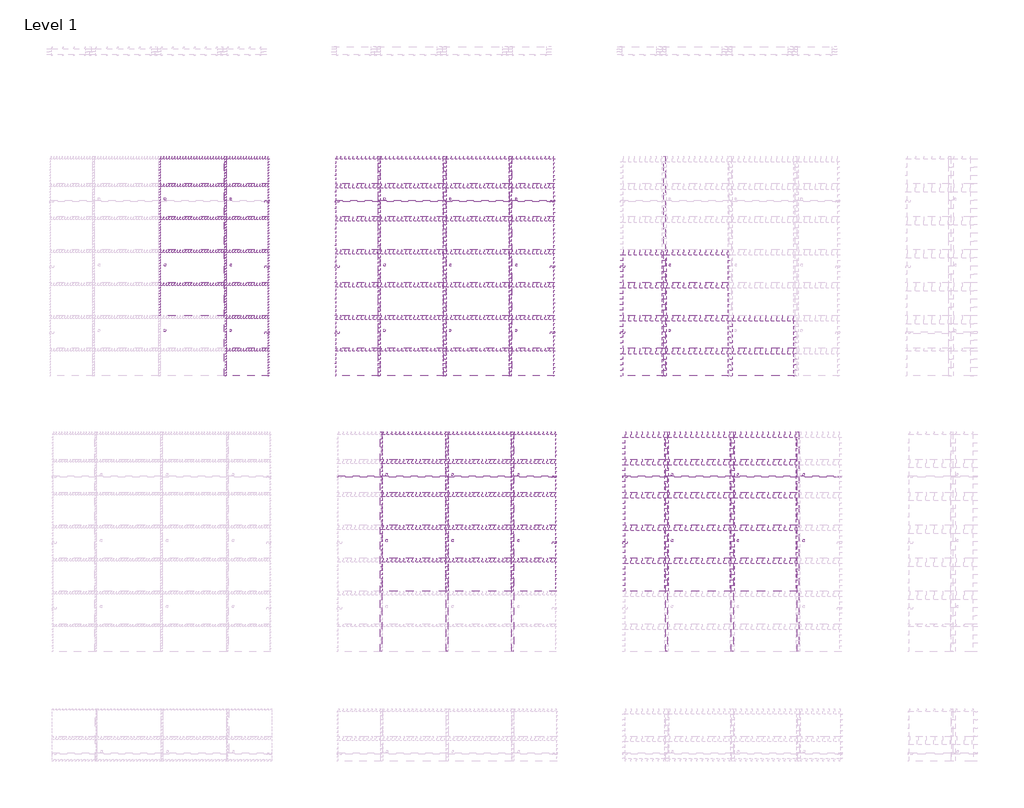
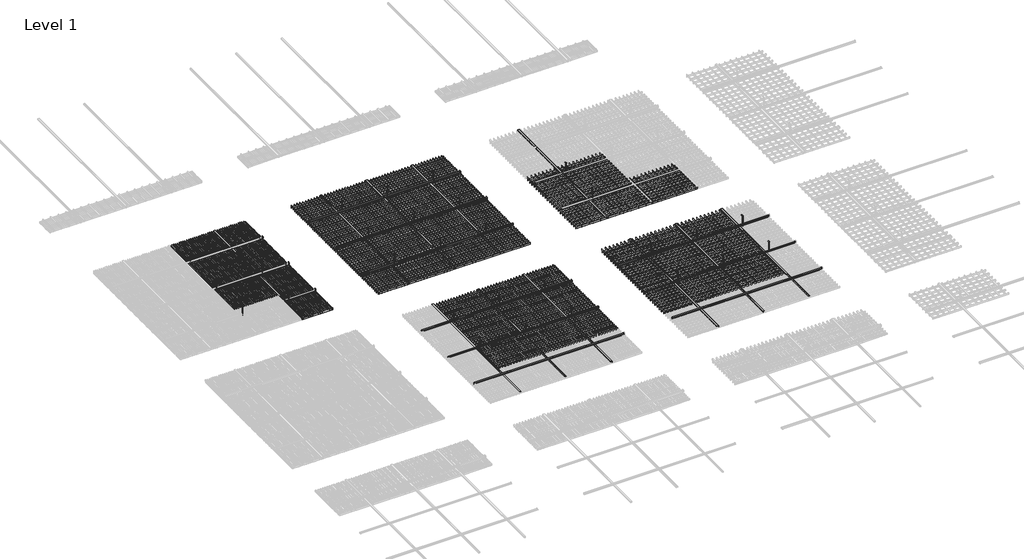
# One storey, part 12 of 32: 138 proxies.
"""IFC4 building model written with IfcOpenShell, lengths in millimetres."""

from ifc_helpers import new_model, si_unit, origin, place, context, project, spatial, transform, mapped, element, save
from components import generic_models_f4ce44e0, generic_models_4dc628ab, generic_models_507d97fd, generic_models_99cc4506, generic_models_b27fb88c, generic_models_1b98d296, generic_models_f7fa241b, generic_models_8915e19e, generic_models_b706f660, generic_models_ebbf936e, generic_models_45dab3f8, generic_models_70ed178c, generic_models_ec955ca2, generic_models_ed86a27e, generic_models_45de698d, generic_models_6ab814e1, generic_models_0d36629b, generic_models_4441d552, generic_models_22f2553a, generic_models_706eee53, generic_models_723ebf24, generic_models_71c4b85c, generic_models_6bcacae0, generic_models_f6474ad0, generic_models_28f6a95c, generic_models_9e18e937

model = new_model("IFC4")

# Units and contexts
model_context = context("Model", 3, world=origin())
ifc_project = project(units=[si_unit("LENGTHUNIT", "METRE", prefix="MILLI")], contexts=[model_context])

# Site, building, storey
site = spatial("IfcSite", under=ifc_project)
building = spatial("IfcBuilding", under=site)
storey = spatial("IfcBuildingStorey", under=building, Name="Level 1", Elevation=0.0)

# Proxies
placement = place(None, origin())
generic_models_shape = generic_models_f4ce44e0(model_context)
element("IfcBuildingElementProxy", 1, Name="durlum_U94 : durlum_U94", ObjectType="durlum_U94 : durlum_U94", at=placement, inside=storey, context=model_context, shape_type="MappedRepresentation", body=[
    mapped(generic_models_shape, transform((37174.5159714, -2089.6204758, 3724.0), x_axis=(0.0, 1.0, 0.0), y_axis=(-1.0, 0.0, 0.0), z_axis=(0.0, 0.0, 1.0))),
])
element("IfcBuildingElementProxy", 2, Name="durlum_U94 : durlum_U94", ObjectType="durlum_U94 : durlum_U94", at=placement, inside=storey, context=model_context, shape_type="MappedRepresentation", body=[
    mapped(generic_models_shape, transform((41174.5159714, -2089.6204758, 3724.0), x_axis=(0.0, 1.0, 0.0), y_axis=(-1.0, 0.0, 0.0), z_axis=(0.0, 0.0, 1.0))),
])
element("IfcBuildingElementProxy", 3, Name="durlum_U94 : durlum_U94", ObjectType="durlum_U94 : durlum_U94", at=placement, inside=storey, context=model_context, shape_type="MappedRepresentation", body=[
    mapped(generic_models_shape, transform((39974.5159714, -2089.6204758, 3724.0), x_axis=(0.0, 1.0, 0.0), y_axis=(-1.0, 0.0, 0.0), z_axis=(0.0, 0.0, 1.0))),
])
element("IfcBuildingElementProxy", 4, Name="durlum_U94 : durlum_U94", ObjectType="durlum_U94 : durlum_U94", at=placement, inside=storey, context=model_context, shape_type="MappedRepresentation", body=[
    mapped(generic_models_shape, transform((42374.5159714, -2089.6204758, 3724.0), x_axis=(0.0, 1.0, 0.0), y_axis=(-1.0, 0.0, 0.0), z_axis=(0.0, 0.0, 1.0))),
])
element("IfcBuildingElementProxy", 5, Name="durlum_U94 : durlum_U94", ObjectType="durlum_U94 : durlum_U94", at=placement, inside=storey, context=model_context, shape_type="MappedRepresentation", body=[
    mapped(generic_models_shape, transform((41212.2666746, -7112.09776, 3724.0), x_axis=(0.0, 1.0, 0.0), y_axis=(-1.0, 0.0, 0.0), z_axis=(0.0, 0.0, 1.0))),
])
element("IfcBuildingElementProxy", 6, Name="durlum_U94 : durlum_U94", ObjectType="durlum_U94 : durlum_U94", at=placement, inside=storey, context=model_context, shape_type="MappedRepresentation", body=[
    mapped(generic_models_shape, transform((40012.2666746, -7112.09776, 3724.0), x_axis=(0.0, 1.0, 0.0), y_axis=(-1.0, 0.0, 0.0), z_axis=(0.0, 0.0, 1.0))),
])
element("IfcBuildingElementProxy", 7, Name="durlum_U94 : durlum_U94", ObjectType="durlum_U94 : durlum_U94", at=placement, inside=storey, context=model_context, shape_type="MappedRepresentation", body=[
    mapped(generic_models_shape, transform((42412.2666746, -7112.09776, 3724.0), x_axis=(0.0, 1.0, 0.0), y_axis=(-1.0, 0.0, 0.0), z_axis=(0.0, 0.0, 1.0))),
])
element("IfcBuildingElementProxy", 8, Name="durlum_U94 : durlum_U94", ObjectType="durlum_U94 : durlum_U94", at=placement, inside=storey, context=model_context, shape_type="MappedRepresentation", body=[
    mapped(generic_models_shape, transform((45174.5159714, -2089.6204758, 3724.0), x_axis=(0.0, 1.0, 0.0), y_axis=(-1.0, 0.0, 0.0), z_axis=(0.0, 0.0, 1.0))),
])
element("IfcBuildingElementProxy", 9, Name="durlum_U94 : durlum_U94", ObjectType="durlum_U94 : durlum_U94", at=placement, inside=storey, context=model_context, shape_type="MappedRepresentation", body=[
    mapped(generic_models_shape, transform((46412.2666746, -7112.09776, 3724.0), x_axis=(0.0, 1.0, 0.0), y_axis=(-1.0, 0.0, 0.0), z_axis=(0.0, 0.0, 1.0))),
])
element("IfcBuildingElementProxy", 10, Name="durlum_U94 : durlum_U94", ObjectType="durlum_U94 : durlum_U94", at=placement, inside=storey, context=model_context, shape_type="MappedRepresentation", body=[
    mapped(generic_models_shape, transform((45212.2666746, -7112.09776, 3724.0), x_axis=(0.0, 1.0, 0.0), y_axis=(-1.0, 0.0, 0.0), z_axis=(0.0, 0.0, 1.0))),
])
element("IfcBuildingElementProxy", 11, Name="durlum_U94 : durlum_U94", ObjectType="durlum_U94 : durlum_U94", at=placement, inside=storey, context=model_context, shape_type="MappedRepresentation", body=[
    mapped(generic_models_shape, transform((47612.2666746, -7112.09776, 3724.0), x_axis=(0.0, 1.0, 0.0), y_axis=(-1.0, 0.0, 0.0), z_axis=(0.0, 0.0, 1.0))),
])
generic_models_2_shape = generic_models_4dc628ab(model_context)
element("IfcBuildingElementProxy", 12, Name="durlum_GEO_panel : durlum_GEO_4", ObjectType="durlum_GEO_panel : durlum_GEO_4", at=placement, inside=storey, context=model_context, shape_type="MappedRepresentation", body=[
    mapped(generic_models_2_shape, transform((36574.5159714, -2689.6204758, 3700.0), x_axis=(1.0, 0.0, 0.0), y_axis=(0.0, 1.0, 0.0), z_axis=(0.0, 0.0, 1.0))),
])
element("IfcBuildingElementProxy", 13, Name="durlum_GEO_panel : durlum_GEO_4", ObjectType="durlum_GEO_panel : durlum_GEO_4", at=placement, inside=storey, context=model_context, shape_type="MappedRepresentation", body=[
    mapped(generic_models_2_shape, transform((36574.5159714, -2089.6204758, 3700.0), x_axis=(1.0, 0.0, 0.0), y_axis=(0.0, 1.0, 0.0), z_axis=(0.0, 0.0, 1.0))),
])
element("IfcBuildingElementProxy", 14, Name="durlum_GEO_panel : durlum_GEO_4", ObjectType="durlum_GEO_panel : durlum_GEO_4", at=placement, inside=storey, context=model_context, shape_type="MappedRepresentation", body=[
    mapped(generic_models_2_shape, transform((36574.5159714, -1489.6204758, 3700.0), x_axis=(1.0, 0.0, 0.0), y_axis=(0.0, 1.0, 0.0), z_axis=(0.0, 0.0, 1.0))),
])
element("IfcBuildingElementProxy", 15, Name="durlum_GEO_panel : durlum_GEO_4", ObjectType="durlum_GEO_panel : durlum_GEO_4", at=placement, inside=storey, context=model_context, shape_type="MappedRepresentation", body=[
    mapped(generic_models_2_shape, transform((36574.5159714, -889.6204758, 3700.0), x_axis=(1.0, 0.0, 0.0), y_axis=(0.0, 1.0, 0.0), z_axis=(0.0, 0.0, 1.0))),
])
generic_models_3_shape = generic_models_507d97fd(model_context)
element("IfcBuildingElementProxy", 16, Name="durlum_GEO_panel : durlum_GEO_4_width_cut", ObjectType="durlum_GEO_panel : durlum_GEO_4_width_cut", at=placement, inside=storey, context=model_context, shape_type="MappedRepresentation", body=[
    mapped(generic_models_3_shape, transform((36574.5159714, -339.6204758, 3700.0), x_axis=(1.0, 0.0, 0.0), y_axis=(0.0, 1.0, 0.0), z_axis=(0.0, 0.0, 1.0))),
])
generic_models_4_shape = generic_models_99cc4506(model_context)
element("IfcBuildingElementProxy", 17, Name="durlum_GEO_panel : durlum_GEO_4", ObjectType="durlum_GEO_panel : durlum_GEO_4", at=placement, inside=storey, context=model_context, shape_type="MappedRepresentation", body=[
    mapped(generic_models_4_shape, transform((40574.5159714, -2689.6204758, 3700.0), x_axis=(1.0, 0.0, 0.0), y_axis=(0.0, 1.0, 0.0), z_axis=(0.0, 0.0, 1.0))),
])
element("IfcBuildingElementProxy", 18, Name="durlum_GEO_panel : durlum_GEO_4", ObjectType="durlum_GEO_panel : durlum_GEO_4", at=placement, inside=storey, context=model_context, shape_type="MappedRepresentation", body=[
    mapped(generic_models_4_shape, transform((41774.5159714, -2689.6204758, 3700.0), x_axis=(1.0, 0.0, 0.0), y_axis=(0.0, 1.0, 0.0), z_axis=(0.0, 0.0, 1.0))),
])
element("IfcBuildingElementProxy", 19, Name="durlum_GEO_panel : durlum_GEO_4", ObjectType="durlum_GEO_panel : durlum_GEO_4", at=placement, inside=storey, context=model_context, shape_type="MappedRepresentation", body=[
    mapped(generic_models_4_shape, transform((40574.5159714, -2089.6204758, 3700.0), x_axis=(1.0, 0.0, 0.0), y_axis=(0.0, 1.0, 0.0), z_axis=(0.0, 0.0, 1.0))),
])
element("IfcBuildingElementProxy", 20, Name="durlum_GEO_panel : durlum_GEO_4", ObjectType="durlum_GEO_panel : durlum_GEO_4", at=placement, inside=storey, context=model_context, shape_type="MappedRepresentation", body=[
    mapped(generic_models_4_shape, transform((41774.5159714, -2089.6204758, 3700.0), x_axis=(1.0, 0.0, 0.0), y_axis=(0.0, 1.0, 0.0), z_axis=(0.0, 0.0, 1.0))),
])
element("IfcBuildingElementProxy", 21, Name="durlum_GEO_panel : durlum_GEO_4", ObjectType="durlum_GEO_panel : durlum_GEO_4", at=placement, inside=storey, context=model_context, shape_type="MappedRepresentation", body=[
    mapped(generic_models_4_shape, transform((40574.5159714, -1489.6204758, 3700.0), x_axis=(1.0, 0.0, 0.0), y_axis=(0.0, 1.0, 0.0), z_axis=(0.0, 0.0, 1.0))),
])
element("IfcBuildingElementProxy", 22, Name="durlum_GEO_panel : durlum_GEO_4", ObjectType="durlum_GEO_panel : durlum_GEO_4", at=placement, inside=storey, context=model_context, shape_type="MappedRepresentation", body=[
    mapped(generic_models_4_shape, transform((41774.5159714, -1489.6204758, 3700.0), x_axis=(1.0, 0.0, 0.0), y_axis=(0.0, 1.0, 0.0), z_axis=(0.0, 0.0, 1.0))),
])
element("IfcBuildingElementProxy", 23, Name="durlum_GEO_panel : durlum_GEO_4", ObjectType="durlum_GEO_panel : durlum_GEO_4", at=placement, inside=storey, context=model_context, shape_type="MappedRepresentation", body=[
    mapped(generic_models_4_shape, transform((40574.5159714, -889.6204758, 3700.0), x_axis=(1.0, 0.0, 0.0), y_axis=(0.0, 1.0, 0.0), z_axis=(0.0, 0.0, 1.0))),
])
element("IfcBuildingElementProxy", 24, Name="durlum_GEO_panel : durlum_GEO_4", ObjectType="durlum_GEO_panel : durlum_GEO_4", at=placement, inside=storey, context=model_context, shape_type="MappedRepresentation", body=[
    mapped(generic_models_4_shape, transform((41774.5159714, -889.6204758, 3700.0), x_axis=(1.0, 0.0, 0.0), y_axis=(0.0, 1.0, 0.0), z_axis=(0.0, 0.0, 1.0))),
])
element("IfcBuildingElementProxy", 25, Name="durlum_GEO_panel : durlum_GEO_4", ObjectType="durlum_GEO_panel : durlum_GEO_4", at=placement, inside=storey, context=model_context, shape_type="MappedRepresentation", body=[
    mapped(generic_models_4_shape, transform((40574.5159714, -3289.6204758, 3700.0), x_axis=(1.0, 0.0, 0.0), y_axis=(0.0, 1.0, 0.0), z_axis=(0.0, 0.0, 1.0))),
])
element("IfcBuildingElementProxy", 26, Name="durlum_GEO_panel : durlum_GEO_4", ObjectType="durlum_GEO_panel : durlum_GEO_4", at=placement, inside=storey, context=model_context, shape_type="MappedRepresentation", body=[
    mapped(generic_models_4_shape, transform((41774.5159714, -3289.6204758, 3700.0), x_axis=(1.0, 0.0, 0.0), y_axis=(0.0, 1.0, 0.0), z_axis=(0.0, 0.0, 1.0))),
])
generic_models_5_shape = generic_models_b27fb88c(model_context)
element("IfcBuildingElementProxy", 27, Name="durlum_GEO_panel : durlum_GEO_4_width_cut", ObjectType="durlum_GEO_panel : durlum_GEO_4_width_cut", at=placement, inside=storey, context=model_context, shape_type="MappedRepresentation", body=[
    mapped(generic_models_5_shape, transform((40574.5159714, -3839.6204758, 3700.0), x_axis=(1.0, 0.0, 0.0), y_axis=(0.0, 1.0, 0.0), z_axis=(0.0, 0.0, 1.0))),
])
element("IfcBuildingElementProxy", 28, Name="durlum_GEO_panel : durlum_GEO_4_width_cut", ObjectType="durlum_GEO_panel : durlum_GEO_4_width_cut", at=placement, inside=storey, context=model_context, shape_type="MappedRepresentation", body=[
    mapped(generic_models_5_shape, transform((40574.5159714, -339.6204758, 3700.0), x_axis=(1.0, 0.0, 0.0), y_axis=(0.0, 1.0, 0.0), z_axis=(0.0, 0.0, 1.0))),
])
element("IfcBuildingElementProxy", 29, Name="durlum_GEO_panel : durlum_GEO_4_width_cut", ObjectType="durlum_GEO_panel : durlum_GEO_4_width_cut", at=placement, inside=storey, context=model_context, shape_type="MappedRepresentation", body=[
    mapped(generic_models_5_shape, transform((41774.5159714, -3839.6204758, 3700.0), x_axis=(1.0, 0.0, 0.0), y_axis=(0.0, 1.0, 0.0), z_axis=(0.0, 0.0, 1.0))),
])
element("IfcBuildingElementProxy", 30, Name="durlum_GEO_panel : durlum_GEO_4_width_cut", ObjectType="durlum_GEO_panel : durlum_GEO_4_width_cut", at=placement, inside=storey, context=model_context, shape_type="MappedRepresentation", body=[
    mapped(generic_models_5_shape, transform((41774.5159714, -339.6204758, 3700.0), x_axis=(1.0, 0.0, 0.0), y_axis=(0.0, 1.0, 0.0), z_axis=(0.0, 0.0, 1.0))),
])
generic_models_6_shape = generic_models_1b98d296(model_context)
element("IfcBuildingElementProxy", 31, Name="durlum_GEO_panel : durlum_GEO_9", ObjectType="durlum_GEO_panel : durlum_GEO_9", at=placement, inside=storey, context=model_context, shape_type="MappedRepresentation", body=[
    mapped(generic_models_6_shape, transform((40612.2666746, -7712.09776, 3700.0), x_axis=(1.0, 0.0, 0.0), y_axis=(0.0, 1.0, 0.0), z_axis=(0.0, 0.0, 1.0))),
])
element("IfcBuildingElementProxy", 32, Name="durlum_GEO_panel : durlum_GEO_9", ObjectType="durlum_GEO_panel : durlum_GEO_9", at=placement, inside=storey, context=model_context, shape_type="MappedRepresentation", body=[
    mapped(generic_models_6_shape, transform((41812.2666746, -7712.09776, 3700.0), x_axis=(1.0, 0.0, 0.0), y_axis=(0.0, 1.0, 0.0), z_axis=(0.0, 0.0, 1.0))),
])
element("IfcBuildingElementProxy", 33, Name="durlum_GEO_panel : durlum_GEO_9", ObjectType="durlum_GEO_panel : durlum_GEO_9", at=placement, inside=storey, context=model_context, shape_type="MappedRepresentation", body=[
    mapped(generic_models_6_shape, transform((40612.2666746, -7112.09776, 3700.0), x_axis=(1.0, 0.0, 0.0), y_axis=(0.0, 1.0, 0.0), z_axis=(0.0, 0.0, 1.0))),
])
element("IfcBuildingElementProxy", 34, Name="durlum_GEO_panel : durlum_GEO_9", ObjectType="durlum_GEO_panel : durlum_GEO_9", at=placement, inside=storey, context=model_context, shape_type="MappedRepresentation", body=[
    mapped(generic_models_6_shape, transform((41812.2666746, -7112.09776, 3700.0), x_axis=(1.0, 0.0, 0.0), y_axis=(0.0, 1.0, 0.0), z_axis=(0.0, 0.0, 1.0))),
])
element("IfcBuildingElementProxy", 35, Name="durlum_GEO_panel : durlum_GEO_9", ObjectType="durlum_GEO_panel : durlum_GEO_9", at=placement, inside=storey, context=model_context, shape_type="MappedRepresentation", body=[
    mapped(generic_models_6_shape, transform((40612.2666746, -6512.09776, 3700.0), x_axis=(1.0, 0.0, 0.0), y_axis=(0.0, 1.0, 0.0), z_axis=(0.0, 0.0, 1.0))),
])
element("IfcBuildingElementProxy", 36, Name="durlum_GEO_panel : durlum_GEO_9", ObjectType="durlum_GEO_panel : durlum_GEO_9", at=placement, inside=storey, context=model_context, shape_type="MappedRepresentation", body=[
    mapped(generic_models_6_shape, transform((41812.2666746, -6512.09776, 3700.0), x_axis=(1.0, 0.0, 0.0), y_axis=(0.0, 1.0, 0.0), z_axis=(0.0, 0.0, 1.0))),
])
element("IfcBuildingElementProxy", 37, Name="durlum_GEO_panel : durlum_GEO_9", ObjectType="durlum_GEO_panel : durlum_GEO_9", at=placement, inside=storey, context=model_context, shape_type="MappedRepresentation", body=[
    mapped(generic_models_6_shape, transform((40612.2666746, -5912.09776, 3700.0), x_axis=(1.0, 0.0, 0.0), y_axis=(0.0, 1.0, 0.0), z_axis=(0.0, 0.0, 1.0))),
])
element("IfcBuildingElementProxy", 38, Name="durlum_GEO_panel : durlum_GEO_9", ObjectType="durlum_GEO_panel : durlum_GEO_9", at=placement, inside=storey, context=model_context, shape_type="MappedRepresentation", body=[
    mapped(generic_models_6_shape, transform((41812.2666746, -5912.09776, 3700.0), x_axis=(1.0, 0.0, 0.0), y_axis=(0.0, 1.0, 0.0), z_axis=(0.0, 0.0, 1.0))),
])
generic_models_7_shape = generic_models_f7fa241b(model_context)
element("IfcBuildingElementProxy", 39, Name="durlum_GEO_panel : durlum_GEO_9_width_cut", ObjectType="durlum_GEO_panel : durlum_GEO_9_width_cut", at=placement, inside=storey, context=model_context, shape_type="MappedRepresentation", body=[
    mapped(generic_models_7_shape, transform((40612.2666746, -5362.09776, 3700.0), x_axis=(1.0, 0.0, 0.0), y_axis=(0.0, 1.0, 0.0), z_axis=(0.0, 0.0, 1.0))),
])
element("IfcBuildingElementProxy", 40, Name="durlum_GEO_panel : durlum_GEO_9_width_cut", ObjectType="durlum_GEO_panel : durlum_GEO_9_width_cut", at=placement, inside=storey, context=model_context, shape_type="MappedRepresentation", body=[
    mapped(generic_models_7_shape, transform((41812.2666746, -5362.09776, 3700.0), x_axis=(1.0, 0.0, 0.0), y_axis=(0.0, 1.0, 0.0), z_axis=(0.0, 0.0, 1.0))),
])
generic_models_8_shape = generic_models_8915e19e(model_context)
element("IfcBuildingElementProxy", 41, Name="durlum_GEO_panel : durlum_GEO_4", ObjectType="durlum_GEO_panel : durlum_GEO_4", at=placement, inside=storey, context=model_context, shape_type="MappedRepresentation", body=[
    mapped(generic_models_8_shape, transform((45774.5159714, -2689.6204758, 3700.0), x_axis=(1.0, 0.0, 0.0), y_axis=(0.0, 1.0, 0.0), z_axis=(0.0, 0.0, 1.0))),
])
element("IfcBuildingElementProxy", 42, Name="durlum_GEO_panel : durlum_GEO_4", ObjectType="durlum_GEO_panel : durlum_GEO_4", at=placement, inside=storey, context=model_context, shape_type="MappedRepresentation", body=[
    mapped(generic_models_8_shape, transform((45774.5159714, -2089.6204758, 3700.0), x_axis=(1.0, 0.0, 0.0), y_axis=(0.0, 1.0, 0.0), z_axis=(0.0, 0.0, 1.0))),
])
element("IfcBuildingElementProxy", 43, Name="durlum_GEO_panel : durlum_GEO_4", ObjectType="durlum_GEO_panel : durlum_GEO_4", at=placement, inside=storey, context=model_context, shape_type="MappedRepresentation", body=[
    mapped(generic_models_8_shape, transform((45774.5159714, -3289.6204758, 3700.0), x_axis=(1.0, 0.0, 0.0), y_axis=(0.0, 1.0, 0.0), z_axis=(0.0, 0.0, 1.0))),
])
element("IfcBuildingElementProxy", 44, Name="durlum_GEO_panel : durlum_GEO_4", ObjectType="durlum_GEO_panel : durlum_GEO_4", at=placement, inside=storey, context=model_context, shape_type="MappedRepresentation", body=[
    mapped(generic_models_8_shape, transform((46974.5159714, -3289.6204758, 3700.0), x_axis=(1.0, 0.0, 0.0), y_axis=(0.0, 1.0, 0.0), z_axis=(0.0, 0.0, 1.0))),
])
generic_models_9_shape = generic_models_b706f660(model_context)
element("IfcBuildingElementProxy", 45, Name="durlum_GEO_panel : durlum_GEO_4_width_cut", ObjectType="durlum_GEO_panel : durlum_GEO_4_width_cut", at=placement, inside=storey, context=model_context, shape_type="MappedRepresentation", body=[
    mapped(generic_models_9_shape, transform((45774.5159714, -3839.6204758, 3700.0), x_axis=(1.0, 0.0, 0.0), y_axis=(0.0, 1.0, 0.0), z_axis=(0.0, 0.0, 1.0))),
])
element("IfcBuildingElementProxy", 46, Name="durlum_GEO_panel : durlum_GEO_4_width_cut", ObjectType="durlum_GEO_panel : durlum_GEO_4_width_cut", at=placement, inside=storey, context=model_context, shape_type="MappedRepresentation", body=[
    mapped(generic_models_9_shape, transform((46974.5159714, -3839.6204758, 3700.0), x_axis=(1.0, 0.0, 0.0), y_axis=(0.0, 1.0, 0.0), z_axis=(0.0, 0.0, 1.0))),
])
generic_models_10_shape = generic_models_ebbf936e(model_context)
element("IfcBuildingElementProxy", 47, Name="durlum_GEO_panel : durlum_GEO_9", ObjectType="durlum_GEO_panel : durlum_GEO_9", at=placement, inside=storey, context=model_context, shape_type="MappedRepresentation", body=[
    mapped(generic_models_10_shape, transform((45812.2666746, -7712.09776, 3700.0), x_axis=(1.0, 0.0, 0.0), y_axis=(0.0, 1.0, 0.0), z_axis=(0.0, 0.0, 1.0))),
])
element("IfcBuildingElementProxy", 48, Name="durlum_GEO_panel : durlum_GEO_9", ObjectType="durlum_GEO_panel : durlum_GEO_9", at=placement, inside=storey, context=model_context, shape_type="MappedRepresentation", body=[
    mapped(generic_models_10_shape, transform((47012.2666746, -7712.09776, 3700.0), x_axis=(1.0, 0.0, 0.0), y_axis=(0.0, 1.0, 0.0), z_axis=(0.0, 0.0, 1.0))),
])
element("IfcBuildingElementProxy", 49, Name="durlum_GEO_panel : durlum_GEO_9", ObjectType="durlum_GEO_panel : durlum_GEO_9", at=placement, inside=storey, context=model_context, shape_type="MappedRepresentation", body=[
    mapped(generic_models_10_shape, transform((45812.2666746, -7112.09776, 3700.0), x_axis=(1.0, 0.0, 0.0), y_axis=(0.0, 1.0, 0.0), z_axis=(0.0, 0.0, 1.0))),
])
element("IfcBuildingElementProxy", 50, Name="durlum_GEO_panel : durlum_GEO_9", ObjectType="durlum_GEO_panel : durlum_GEO_9", at=placement, inside=storey, context=model_context, shape_type="MappedRepresentation", body=[
    mapped(generic_models_10_shape, transform((47012.2666746, -7112.09776, 3700.0), x_axis=(1.0, 0.0, 0.0), y_axis=(0.0, 1.0, 0.0), z_axis=(0.0, 0.0, 1.0))),
])
element("IfcBuildingElementProxy", 51, Name="durlum_GEO_panel : durlum_GEO_9", ObjectType="durlum_GEO_panel : durlum_GEO_9", at=placement, inside=storey, context=model_context, shape_type="MappedRepresentation", body=[
    mapped(generic_models_10_shape, transform((45812.2666746, -6512.09776, 3700.0), x_axis=(1.0, 0.0, 0.0), y_axis=(0.0, 1.0, 0.0), z_axis=(0.0, 0.0, 1.0))),
])
element("IfcBuildingElementProxy", 52, Name="durlum_GEO_panel : durlum_GEO_9", ObjectType="durlum_GEO_panel : durlum_GEO_9", at=placement, inside=storey, context=model_context, shape_type="MappedRepresentation", body=[
    mapped(generic_models_10_shape, transform((47012.2666746, -6512.09776, 3700.0), x_axis=(1.0, 0.0, 0.0), y_axis=(0.0, 1.0, 0.0), z_axis=(0.0, 0.0, 1.0))),
])
element("IfcBuildingElementProxy", 53, Name="durlum_GEO_panel : durlum_GEO_9", ObjectType="durlum_GEO_panel : durlum_GEO_9", at=placement, inside=storey, context=model_context, shape_type="MappedRepresentation", body=[
    mapped(generic_models_10_shape, transform((45812.2666746, -5912.09776, 3700.0), x_axis=(1.0, 0.0, 0.0), y_axis=(0.0, 1.0, 0.0), z_axis=(0.0, 0.0, 1.0))),
])
element("IfcBuildingElementProxy", 54, Name="durlum_GEO_panel : durlum_GEO_9", ObjectType="durlum_GEO_panel : durlum_GEO_9", at=placement, inside=storey, context=model_context, shape_type="MappedRepresentation", body=[
    mapped(generic_models_10_shape, transform((47012.2666746, -5912.09776, 3700.0), x_axis=(1.0, 0.0, 0.0), y_axis=(0.0, 1.0, 0.0), z_axis=(0.0, 0.0, 1.0))),
])
generic_models_11_shape = generic_models_45dab3f8(model_context)
element("IfcBuildingElementProxy", 55, Name="durlum_GEO_panel : durlum_GEO_9_width_cut", ObjectType="durlum_GEO_panel : durlum_GEO_9_width_cut", at=placement, inside=storey, context=model_context, shape_type="MappedRepresentation", body=[
    mapped(generic_models_11_shape, transform((45812.2666746, -5362.09776, 3700.0), x_axis=(1.0, 0.0, 0.0), y_axis=(0.0, 1.0, 0.0), z_axis=(0.0, 0.0, 1.0))),
])
element("IfcBuildingElementProxy", 56, Name="durlum_GEO_panel : durlum_GEO_9_width_cut", ObjectType="durlum_GEO_panel : durlum_GEO_9_width_cut", at=placement, inside=storey, context=model_context, shape_type="MappedRepresentation", body=[
    mapped(generic_models_11_shape, transform((47012.2666746, -5362.09776, 3700.0), x_axis=(1.0, 0.0, 0.0), y_axis=(0.0, 1.0, 0.0), z_axis=(0.0, 0.0, 1.0))),
])
generic_models_12_shape = generic_models_70ed178c(model_context)
element("IfcBuildingElementProxy", 57, Name="durlum_GEO_panel : durlum_GEO_4_length_cut", ObjectType="durlum_GEO_panel : durlum_GEO_4_length_cut", at=placement, inside=storey, context=model_context, shape_type="MappedRepresentation", body=[
    mapped(generic_models_12_shape, transform((37574.7659714, -1489.6204758, 3700.0), x_axis=(1.0, 0.0, 0.0), y_axis=(0.0, 1.0, 0.0), z_axis=(0.0, 0.0, 1.0))),
])
element("IfcBuildingElementProxy", 58, Name="durlum_GEO_panel : durlum_GEO_4_length_cut", ObjectType="durlum_GEO_panel : durlum_GEO_4_length_cut", at=placement, inside=storey, context=model_context, shape_type="MappedRepresentation", body=[
    mapped(generic_models_12_shape, transform((37574.7659714, -2089.6204758, 3700.0), x_axis=(1.0, 0.0, 0.0), y_axis=(0.0, 1.0, 0.0), z_axis=(0.0, 0.0, 1.0))),
])
element("IfcBuildingElementProxy", 59, Name="durlum_GEO_panel : durlum_GEO_4_length_cut", ObjectType="durlum_GEO_panel : durlum_GEO_4_length_cut", at=placement, inside=storey, context=model_context, shape_type="MappedRepresentation", body=[
    mapped(generic_models_12_shape, transform((37574.7659714, -2689.6204758, 3700.0), x_axis=(1.0, 0.0, 0.0), y_axis=(0.0, 1.0, 0.0), z_axis=(0.0, 0.0, 1.0))),
])
element("IfcBuildingElementProxy", 60, Name="durlum_GEO_panel : durlum_GEO_4_length_cut", ObjectType="durlum_GEO_panel : durlum_GEO_4_length_cut", at=placement, inside=storey, context=model_context, shape_type="MappedRepresentation", body=[
    mapped(generic_models_12_shape, transform((37574.7659714, -889.6204758, 3700.0), x_axis=(1.0, 0.0, 0.0), y_axis=(0.0, 1.0, 0.0), z_axis=(0.0, 0.0, 1.0))),
])
element("IfcBuildingElementProxy", 61, Name="durlum_GEO_panel : durlum_GEO_4_length_cut", ObjectType="durlum_GEO_panel : durlum_GEO_4_length_cut", at=placement, inside=storey, context=model_context, shape_type="MappedRepresentation", body=[
    mapped(generic_models_12_shape, transform((37574.7659714, -3289.6204758, 3700.0), x_axis=(1.0, 0.0, 0.0), y_axis=(0.0, 1.0, 0.0), z_axis=(0.0, 0.0, 1.0))),
])
generic_models_13_shape = generic_models_ec955ca2(model_context)
element("IfcBuildingElementProxy", 62, Name="durlum_GEO_panel : durlum_GEO_4_corner_cut", ObjectType="durlum_GEO_panel : durlum_GEO_4_corner_cut", at=placement, inside=storey, context=model_context, shape_type="MappedRepresentation", body=[
    mapped(generic_models_13_shape, transform((37574.7659714, -339.6204758, 3700.0), x_axis=(1.0, 0.0, 0.0), y_axis=(0.0, 1.0, 0.0), z_axis=(0.0, 0.0, 1.0))),
])
element("IfcBuildingElementProxy", 63, Name="durlum_GEO_panel : durlum_GEO_4_corner_cut", ObjectType="durlum_GEO_panel : durlum_GEO_4_corner_cut", at=placement, inside=storey, context=model_context, shape_type="MappedRepresentation", body=[
    mapped(generic_models_13_shape, transform((37574.7659714, -3839.6204758, 3700.0), x_axis=(1.0, 0.0, 0.0), y_axis=(0.0, 1.0, 0.0), z_axis=(0.0, 0.0, 1.0))),
])
generic_models_14_shape = generic_models_ed86a27e(model_context)
element("IfcBuildingElementProxy", 64, Name="durlum_GEO_4 : durlum_GEO_4", ObjectType="durlum_GEO_4 : durlum_GEO_4", at=placement, inside=storey, context=model_context, shape_type="MappedRepresentation", body=[
    mapped(generic_models_14_shape, transform((41174.5159714, -2089.6204758, 0.0), x_axis=(1.0, 0.0, 0.0), y_axis=(0.0, 1.0, 0.0), z_axis=(0.0, 0.0, 1.0))),
])
generic_models_15_shape = generic_models_45de698d(model_context)
element("IfcBuildingElementProxy", 65, Name="durlum_GEO_panel : durlum_GEO_4_length_cut", ObjectType="durlum_GEO_panel : durlum_GEO_4_length_cut", at=placement, inside=storey, context=model_context, shape_type="MappedRepresentation", body=[
    mapped(generic_models_15_shape, transform((39574.2659714, -1489.6204758, 3700.0), x_axis=(1.0, 0.0, 0.0), y_axis=(0.0, 1.0, 0.0), z_axis=(0.0, 0.0, 1.0))),
])
element("IfcBuildingElementProxy", 66, Name="durlum_GEO_panel : durlum_GEO_4_length_cut", ObjectType="durlum_GEO_panel : durlum_GEO_4_length_cut", at=placement, inside=storey, context=model_context, shape_type="MappedRepresentation", body=[
    mapped(generic_models_15_shape, transform((39574.2659714, -2089.6204758, 3700.0), x_axis=(1.0, 0.0, 0.0), y_axis=(0.0, 1.0, 0.0), z_axis=(0.0, 0.0, 1.0))),
])
element("IfcBuildingElementProxy", 67, Name="durlum_GEO_panel : durlum_GEO_4_length_cut", ObjectType="durlum_GEO_panel : durlum_GEO_4_length_cut", at=placement, inside=storey, context=model_context, shape_type="MappedRepresentation", body=[
    mapped(generic_models_15_shape, transform((39574.2659714, -2689.6204758, 3700.0), x_axis=(1.0, 0.0, 0.0), y_axis=(0.0, 1.0, 0.0), z_axis=(0.0, 0.0, 1.0))),
])
element("IfcBuildingElementProxy", 68, Name="durlum_GEO_panel : durlum_GEO_4_length_cut", ObjectType="durlum_GEO_panel : durlum_GEO_4_length_cut", at=placement, inside=storey, context=model_context, shape_type="MappedRepresentation", body=[
    mapped(generic_models_15_shape, transform((42774.7659714, -1489.6204758, 3700.0), x_axis=(1.0, 0.0, 0.0), y_axis=(0.0, 1.0, 0.0), z_axis=(0.0, 0.0, 1.0))),
])
element("IfcBuildingElementProxy", 69, Name="durlum_GEO_panel : durlum_GEO_4_length_cut", ObjectType="durlum_GEO_panel : durlum_GEO_4_length_cut", at=placement, inside=storey, context=model_context, shape_type="MappedRepresentation", body=[
    mapped(generic_models_15_shape, transform((42774.7659714, -2089.6204758, 3700.0), x_axis=(1.0, 0.0, 0.0), y_axis=(0.0, 1.0, 0.0), z_axis=(0.0, 0.0, 1.0))),
])
element("IfcBuildingElementProxy", 70, Name="durlum_GEO_panel : durlum_GEO_4_length_cut", ObjectType="durlum_GEO_panel : durlum_GEO_4_length_cut", at=placement, inside=storey, context=model_context, shape_type="MappedRepresentation", body=[
    mapped(generic_models_15_shape, transform((42774.7659714, -2689.6204758, 3700.0), x_axis=(1.0, 0.0, 0.0), y_axis=(0.0, 1.0, 0.0), z_axis=(0.0, 0.0, 1.0))),
])
element("IfcBuildingElementProxy", 71, Name="durlum_GEO_panel : durlum_GEO_4_length_cut", ObjectType="durlum_GEO_panel : durlum_GEO_4_length_cut", at=placement, inside=storey, context=model_context, shape_type="MappedRepresentation", body=[
    mapped(generic_models_15_shape, transform((42774.7659714, -889.6204758, 3700.0), x_axis=(1.0, 0.0, 0.0), y_axis=(0.0, 1.0, 0.0), z_axis=(0.0, 0.0, 1.0))),
])
element("IfcBuildingElementProxy", 72, Name="durlum_GEO_panel : durlum_GEO_4_length_cut", ObjectType="durlum_GEO_panel : durlum_GEO_4_length_cut", at=placement, inside=storey, context=model_context, shape_type="MappedRepresentation", body=[
    mapped(generic_models_15_shape, transform((39574.2659714, -889.6204758, 3700.0), x_axis=(1.0, 0.0, 0.0), y_axis=(0.0, 1.0, 0.0), z_axis=(0.0, 0.0, 1.0))),
])
element("IfcBuildingElementProxy", 73, Name="durlum_GEO_panel : durlum_GEO_4_length_cut", ObjectType="durlum_GEO_panel : durlum_GEO_4_length_cut", at=placement, inside=storey, context=model_context, shape_type="MappedRepresentation", body=[
    mapped(generic_models_15_shape, transform((39574.2659714, -3289.6204758, 3700.0), x_axis=(1.0, 0.0, 0.0), y_axis=(0.0, 1.0, 0.0), z_axis=(0.0, 0.0, 1.0))),
])
element("IfcBuildingElementProxy", 74, Name="durlum_GEO_panel : durlum_GEO_4_length_cut", ObjectType="durlum_GEO_panel : durlum_GEO_4_length_cut", at=placement, inside=storey, context=model_context, shape_type="MappedRepresentation", body=[
    mapped(generic_models_15_shape, transform((42774.7659714, -3289.6204758, 3700.0), x_axis=(1.0, 0.0, 0.0), y_axis=(0.0, 1.0, 0.0), z_axis=(0.0, 0.0, 1.0))),
])
generic_models_16_shape = generic_models_6ab814e1(model_context)
element("IfcBuildingElementProxy", 75, Name="durlum_GEO_panel : durlum_GEO_4_corner_cut", ObjectType="durlum_GEO_panel : durlum_GEO_4_corner_cut", at=placement, inside=storey, context=model_context, shape_type="MappedRepresentation", body=[
    mapped(generic_models_16_shape, transform((42774.7659714, -339.6204758, 3700.0), x_axis=(1.0, 0.0, 0.0), y_axis=(0.0, 1.0, 0.0), z_axis=(0.0, 0.0, 1.0))),
])
element("IfcBuildingElementProxy", 76, Name="durlum_GEO_panel : durlum_GEO_4_corner_cut", ObjectType="durlum_GEO_panel : durlum_GEO_4_corner_cut", at=placement, inside=storey, context=model_context, shape_type="MappedRepresentation", body=[
    mapped(generic_models_16_shape, transform((39574.2659714, -339.6204758, 3700.0), x_axis=(1.0, 0.0, 0.0), y_axis=(0.0, 1.0, 0.0), z_axis=(0.0, 0.0, 1.0))),
])
element("IfcBuildingElementProxy", 77, Name="durlum_GEO_panel : durlum_GEO_4_corner_cut", ObjectType="durlum_GEO_panel : durlum_GEO_4_corner_cut", at=placement, inside=storey, context=model_context, shape_type="MappedRepresentation", body=[
    mapped(generic_models_16_shape, transform((39574.2659714, -3839.6204758, 3700.0), x_axis=(1.0, 0.0, 0.0), y_axis=(0.0, 1.0, 0.0), z_axis=(0.0, 0.0, 1.0))),
])
element("IfcBuildingElementProxy", 78, Name="durlum_GEO_panel : durlum_GEO_4_corner_cut", ObjectType="durlum_GEO_panel : durlum_GEO_4_corner_cut", at=placement, inside=storey, context=model_context, shape_type="MappedRepresentation", body=[
    mapped(generic_models_16_shape, transform((42774.7659714, -3839.6204758, 3700.0), x_axis=(1.0, 0.0, 0.0), y_axis=(0.0, 1.0, 0.0), z_axis=(0.0, 0.0, 1.0))),
])
generic_models_17_shape = generic_models_0d36629b(model_context)
element("IfcBuildingElementProxy", 79, Name="durlum_GEO_panel : durlum_GEO_4_length_cut", ObjectType="durlum_GEO_panel : durlum_GEO_4_length_cut", at=placement, inside=storey, context=model_context, shape_type="MappedRepresentation", body=[
    mapped(generic_models_17_shape, transform((44774.2659714, -2089.6204758, 3700.0), x_axis=(1.0, 0.0, 0.0), y_axis=(0.0, 1.0, 0.0), z_axis=(0.0, 0.0, 1.0))),
])
element("IfcBuildingElementProxy", 80, Name="durlum_GEO_panel : durlum_GEO_4_length_cut", ObjectType="durlum_GEO_panel : durlum_GEO_4_length_cut", at=placement, inside=storey, context=model_context, shape_type="MappedRepresentation", body=[
    mapped(generic_models_17_shape, transform((44774.2659714, -2689.6204758, 3700.0), x_axis=(1.0, 0.0, 0.0), y_axis=(0.0, 1.0, 0.0), z_axis=(0.0, 0.0, 1.0))),
])
element("IfcBuildingElementProxy", 81, Name="durlum_GEO_panel : durlum_GEO_4_length_cut", ObjectType="durlum_GEO_panel : durlum_GEO_4_length_cut", at=placement, inside=storey, context=model_context, shape_type="MappedRepresentation", body=[
    mapped(generic_models_17_shape, transform((44774.2659714, -3289.6204758, 3700.0), x_axis=(1.0, 0.0, 0.0), y_axis=(0.0, 1.0, 0.0), z_axis=(0.0, 0.0, 1.0))),
])
generic_models_18_shape = generic_models_4441d552(model_context)
element("IfcBuildingElementProxy", 82, Name="durlum_GEO_panel : durlum_GEO_4_corner_cut", ObjectType="durlum_GEO_panel : durlum_GEO_4_corner_cut", at=placement, inside=storey, context=model_context, shape_type="MappedRepresentation", body=[
    mapped(generic_models_18_shape, transform((44774.2659714, -3839.6204758, 3700.0), x_axis=(1.0, 0.0, 0.0), y_axis=(0.0, 1.0, 0.0), z_axis=(0.0, 0.0, 1.0))),
])
generic_models_19_shape = generic_models_22f2553a(model_context)
element("IfcBuildingElementProxy", 83, Name="durlum_GEO_9 : durlum_GEO_9", ObjectType="durlum_GEO_9 : durlum_GEO_9", at=placement, inside=storey, context=model_context, shape_type="MappedRepresentation", body=[
    mapped(generic_models_19_shape, transform((41212.2666746, -7112.09776, 0.0), x_axis=(1.0, 0.0, 0.0), y_axis=(0.0, 1.0, 0.0), z_axis=(0.0, 0.0, 1.0))),
])
generic_models_20_shape = generic_models_706eee53(model_context)
element("IfcBuildingElementProxy", 84, Name="durlum_GEO_panel : durlum_GEO_9_length_cut", ObjectType="durlum_GEO_panel : durlum_GEO_9_length_cut", at=placement, inside=storey, context=model_context, shape_type="MappedRepresentation", body=[
    mapped(generic_models_20_shape, transform((42809.3295262, -6512.09776, 3700.0), x_axis=(1.0, 0.0, 0.0), y_axis=(0.0, 1.0, 0.0), z_axis=(0.0, 0.0, 1.0))),
])
element("IfcBuildingElementProxy", 85, Name="durlum_GEO_panel : durlum_GEO_9_length_cut", ObjectType="durlum_GEO_panel : durlum_GEO_9_length_cut", at=placement, inside=storey, context=model_context, shape_type="MappedRepresentation", body=[
    mapped(generic_models_20_shape, transform((42809.3295262, -7112.09776, 3700.0), x_axis=(1.0, 0.0, 0.0), y_axis=(0.0, 1.0, 0.0), z_axis=(0.0, 0.0, 1.0))),
])
element("IfcBuildingElementProxy", 86, Name="durlum_GEO_panel : durlum_GEO_9_length_cut", ObjectType="durlum_GEO_panel : durlum_GEO_9_length_cut", at=placement, inside=storey, context=model_context, shape_type="MappedRepresentation", body=[
    mapped(generic_models_20_shape, transform((42809.3295262, -7712.09776, 3700.0), x_axis=(1.0, 0.0, 0.0), y_axis=(0.0, 1.0, 0.0), z_axis=(0.0, 0.0, 1.0))),
])
element("IfcBuildingElementProxy", 87, Name="durlum_GEO_panel : durlum_GEO_9_length_cut", ObjectType="durlum_GEO_panel : durlum_GEO_9_length_cut", at=placement, inside=storey, context=model_context, shape_type="MappedRepresentation", body=[
    mapped(generic_models_20_shape, transform((42809.3295262, -5912.09776, 3700.0), x_axis=(1.0, 0.0, 0.0), y_axis=(0.0, 1.0, 0.0), z_axis=(0.0, 0.0, 1.0))),
])
generic_models_21_shape = generic_models_723ebf24(model_context)
element("IfcBuildingElementProxy", 88, Name="durlum_GEO_panel : durlum_GEO_9_corner_cut", ObjectType="durlum_GEO_panel : durlum_GEO_9_corner_cut", at=placement, inside=storey, context=model_context, shape_type="MappedRepresentation", body=[
    mapped(generic_models_21_shape, transform((42809.3295262, -5362.09776, 3700.0), x_axis=(1.0, 0.0, 0.0), y_axis=(0.0, 1.0, 0.0), z_axis=(0.0, 0.0, 1.0))),
])
element("IfcBuildingElementProxy", 89, Name="durlum_GEO_9 : durlum_GEO_9", ObjectType="durlum_GEO_9 : durlum_GEO_9", at=placement, inside=storey, context=model_context, shape_type="MappedRepresentation", body=[
    mapped(generic_models_19_shape, transform((46412.2666746, -7112.09776, 0.0), x_axis=(1.0, 0.0, 0.0), y_axis=(0.0, 1.0, 0.0), z_axis=(0.0, 0.0, 1.0))),
])
generic_models_22_shape = generic_models_71c4b85c(model_context)
element("IfcBuildingElementProxy", 90, Name="durlum_GEO_panel : durlum_GEO_9_length_cut", ObjectType="durlum_GEO_panel : durlum_GEO_9_length_cut", at=placement, inside=storey, context=model_context, shape_type="MappedRepresentation", body=[
    mapped(generic_models_22_shape, transform((44815.203823, -6512.09776, 3700.0), x_axis=(1.0, 0.0, 0.0), y_axis=(0.0, 1.0, 0.0), z_axis=(0.0, 0.0, 1.0))),
])
element("IfcBuildingElementProxy", 91, Name="durlum_GEO_panel : durlum_GEO_9_length_cut", ObjectType="durlum_GEO_panel : durlum_GEO_9_length_cut", at=placement, inside=storey, context=model_context, shape_type="MappedRepresentation", body=[
    mapped(generic_models_22_shape, transform((44815.203823, -7112.09776, 3700.0), x_axis=(1.0, 0.0, 0.0), y_axis=(0.0, 1.0, 0.0), z_axis=(0.0, 0.0, 1.0))),
])
element("IfcBuildingElementProxy", 92, Name="durlum_GEO_panel : durlum_GEO_9_length_cut", ObjectType="durlum_GEO_panel : durlum_GEO_9_length_cut", at=placement, inside=storey, context=model_context, shape_type="MappedRepresentation", body=[
    mapped(generic_models_22_shape, transform((44815.203823, -7712.09776, 3700.0), x_axis=(1.0, 0.0, 0.0), y_axis=(0.0, 1.0, 0.0), z_axis=(0.0, 0.0, 1.0))),
])
element("IfcBuildingElementProxy", 93, Name="durlum_GEO_panel : durlum_GEO_9_length_cut", ObjectType="durlum_GEO_panel : durlum_GEO_9_length_cut", at=placement, inside=storey, context=model_context, shape_type="MappedRepresentation", body=[
    mapped(generic_models_22_shape, transform((44815.203823, -5912.09776, 3700.0), x_axis=(1.0, 0.0, 0.0), y_axis=(0.0, 1.0, 0.0), z_axis=(0.0, 0.0, 1.0))),
])
generic_models_23_shape = generic_models_6bcacae0(model_context)
element("IfcBuildingElementProxy", 94, Name="durlum_GEO_panel : durlum_GEO_9_corner_cut", ObjectType="durlum_GEO_panel : durlum_GEO_9_corner_cut", at=placement, inside=storey, context=model_context, shape_type="MappedRepresentation", body=[
    mapped(generic_models_23_shape, transform((44815.203823, -5362.09776, 3700.0), x_axis=(1.0, 0.0, 0.0), y_axis=(0.0, 1.0, 0.0), z_axis=(0.0, 0.0, 1.0))),
])
generic_models_24_shape = generic_models_f6474ad0(model_context)
element("IfcBuildingElementProxy", 95, Name="durlum_U1300 : durlum_U1300", ObjectType="durlum_U1300 : durlum_U1300", at=placement, inside=storey, context=model_context, shape_type="MappedRepresentation", body=[
    mapped(generic_models_24_shape, transform((37274.5159714, -2089.6204758, 2999.4124682), x_axis=(-1.0, 0.0, 0.0), y_axis=(0.0, -1.0, 0.0), z_axis=(0.0, 0.0, 1.0))),
])
element("IfcBuildingElementProxy", 96, Name="durlum_U1300 : durlum_U1300", ObjectType="durlum_U1300 : durlum_U1300", at=placement, inside=storey, context=model_context, shape_type="MappedRepresentation", body=[
    mapped(generic_models_24_shape, transform((36074.5159714, -2089.6204758, 2999.4124682), x_axis=(-1.0, 0.0, 0.0), y_axis=(0.0, -1.0, 0.0), z_axis=(0.0, 0.0, 1.0))),
])
element("IfcBuildingElementProxy", 97, Name="durlum_U1300 : durlum_U1300", ObjectType="durlum_U1300 : durlum_U1300", at=placement, inside=storey, context=model_context, shape_type="MappedRepresentation", body=[
    mapped(generic_models_24_shape, transform((37274.5159714, -889.6204758, 2999.4124682), x_axis=(-1.0, 0.0, 0.0), y_axis=(0.0, -1.0, 0.0), z_axis=(0.0, 0.0, 1.0))),
])
element("IfcBuildingElementProxy", 98, Name="durlum_U1300 : durlum_U1300", ObjectType="durlum_U1300 : durlum_U1300", at=placement, inside=storey, context=model_context, shape_type="MappedRepresentation", body=[
    mapped(generic_models_24_shape, transform((36074.5159714, -889.6204758, 2999.4124682), x_axis=(-1.0, 0.0, 0.0), y_axis=(0.0, -1.0, 0.0), z_axis=(0.0, 0.0, 1.0))),
])
element("IfcBuildingElementProxy", 99, Name="durlum_U1300 : durlum_U1300", ObjectType="durlum_U1300 : durlum_U1300", at=placement, inside=storey, context=model_context, shape_type="MappedRepresentation", body=[
    mapped(generic_models_24_shape, transform((37274.5159714, -3289.6204758, 2999.4124682), x_axis=(-1.0, 0.0, 0.0), y_axis=(0.0, -1.0, 0.0), z_axis=(0.0, 0.0, 1.0))),
])
element("IfcBuildingElementProxy", 100, Name="durlum_U1300 : durlum_U1300", ObjectType="durlum_U1300 : durlum_U1300", at=placement, inside=storey, context=model_context, shape_type="MappedRepresentation", body=[
    mapped(generic_models_24_shape, transform((36074.5159714, -3289.6204758, 2999.4124682), x_axis=(-1.0, 0.0, 0.0), y_axis=(0.0, -1.0, 0.0), z_axis=(0.0, 0.0, 1.0))),
])
element("IfcBuildingElementProxy", 101, Name="durlum_U1300 : durlum_U1300", ObjectType="durlum_U1300 : durlum_U1300", at=placement, inside=storey, context=model_context, shape_type="MappedRepresentation", body=[
    mapped(generic_models_24_shape, transform((40074.5159714, -2089.6204758, 2999.4124682), x_axis=(-1.0, 0.0, 0.0), y_axis=(0.0, -1.0, 0.0), z_axis=(0.0, 0.0, 1.0))),
])
element("IfcBuildingElementProxy", 102, Name="durlum_U1300 : durlum_U1300", ObjectType="durlum_U1300 : durlum_U1300", at=placement, inside=storey, context=model_context, shape_type="MappedRepresentation", body=[
    mapped(generic_models_24_shape, transform((42474.5159714, -2089.6204758, 2999.4124682), x_axis=(-1.0, 0.0, 0.0), y_axis=(0.0, -1.0, 0.0), z_axis=(0.0, 0.0, 1.0))),
])
element("IfcBuildingElementProxy", 103, Name="durlum_U1300 : durlum_U1300", ObjectType="durlum_U1300 : durlum_U1300", at=placement, inside=storey, context=model_context, shape_type="MappedRepresentation", body=[
    mapped(generic_models_24_shape, transform((41274.5159714, -2089.6204758, 2999.4124682), x_axis=(-1.0, 0.0, 0.0), y_axis=(0.0, -1.0, 0.0), z_axis=(0.0, 0.0, 1.0))),
])
element("IfcBuildingElementProxy", 104, Name="durlum_U1300 : durlum_U1300", ObjectType="durlum_U1300 : durlum_U1300", at=placement, inside=storey, context=model_context, shape_type="MappedRepresentation", body=[
    mapped(generic_models_24_shape, transform((40074.5159714, -889.6204758, 2999.4124682), x_axis=(-1.0, 0.0, 0.0), y_axis=(0.0, -1.0, 0.0), z_axis=(0.0, 0.0, 1.0))),
])
element("IfcBuildingElementProxy", 105, Name="durlum_U1300 : durlum_U1300", ObjectType="durlum_U1300 : durlum_U1300", at=placement, inside=storey, context=model_context, shape_type="MappedRepresentation", body=[
    mapped(generic_models_24_shape, transform((42474.5159714, -889.6204758, 2999.4124682), x_axis=(-1.0, 0.0, 0.0), y_axis=(0.0, -1.0, 0.0), z_axis=(0.0, 0.0, 1.0))),
])
element("IfcBuildingElementProxy", 106, Name="durlum_U1300 : durlum_U1300", ObjectType="durlum_U1300 : durlum_U1300", at=placement, inside=storey, context=model_context, shape_type="MappedRepresentation", body=[
    mapped(generic_models_24_shape, transform((41274.5159714, -889.6204758, 2999.4124682), x_axis=(-1.0, 0.0, 0.0), y_axis=(0.0, -1.0, 0.0), z_axis=(0.0, 0.0, 1.0))),
])
element("IfcBuildingElementProxy", 107, Name="durlum_U1300 : durlum_U1300", ObjectType="durlum_U1300 : durlum_U1300", at=placement, inside=storey, context=model_context, shape_type="MappedRepresentation", body=[
    mapped(generic_models_24_shape, transform((40074.5159714, -3289.6204758, 2999.4124682), x_axis=(-1.0, 0.0, 0.0), y_axis=(0.0, -1.0, 0.0), z_axis=(0.0, 0.0, 1.0))),
])
element("IfcBuildingElementProxy", 108, Name="durlum_U1300 : durlum_U1300", ObjectType="durlum_U1300 : durlum_U1300", at=placement, inside=storey, context=model_context, shape_type="MappedRepresentation", body=[
    mapped(generic_models_24_shape, transform((42474.5159714, -3289.6204758, 2999.4124682), x_axis=(-1.0, 0.0, 0.0), y_axis=(0.0, -1.0, 0.0), z_axis=(0.0, 0.0, 1.0))),
])
element("IfcBuildingElementProxy", 109, Name="durlum_U1300 : durlum_U1300", ObjectType="durlum_U1300 : durlum_U1300", at=placement, inside=storey, context=model_context, shape_type="MappedRepresentation", body=[
    mapped(generic_models_24_shape, transform((41274.5159714, -3289.6204758, 2999.4124682), x_axis=(-1.0, 0.0, 0.0), y_axis=(0.0, -1.0, 0.0), z_axis=(0.0, 0.0, 1.0))),
])
element("IfcBuildingElementProxy", 110, Name="durlum_U1300 : durlum_U1300", ObjectType="durlum_U1300 : durlum_U1300", at=placement, inside=storey, context=model_context, shape_type="MappedRepresentation", body=[
    mapped(generic_models_24_shape, transform((40112.2666746, -7112.09776, 2999.4124682), x_axis=(-1.0, 0.0, 0.0), y_axis=(0.0, -1.0, 0.0), z_axis=(0.0, 0.0, 1.0))),
])
element("IfcBuildingElementProxy", 111, Name="durlum_U1300 : durlum_U1300", ObjectType="durlum_U1300 : durlum_U1300", at=placement, inside=storey, context=model_context, shape_type="MappedRepresentation", body=[
    mapped(generic_models_24_shape, transform((42512.2666746, -7112.09776, 2999.4124682), x_axis=(-1.0, 0.0, 0.0), y_axis=(0.0, -1.0, 0.0), z_axis=(0.0, 0.0, 1.0))),
])
element("IfcBuildingElementProxy", 112, Name="durlum_U1300 : durlum_U1300", ObjectType="durlum_U1300 : durlum_U1300", at=placement, inside=storey, context=model_context, shape_type="MappedRepresentation", body=[
    mapped(generic_models_24_shape, transform((41312.2666746, -7112.09776, 2999.4124682), x_axis=(-1.0, 0.0, 0.0), y_axis=(0.0, -1.0, 0.0), z_axis=(0.0, 0.0, 1.0))),
])
element("IfcBuildingElementProxy", 113, Name="durlum_U1300 : durlum_U1300", ObjectType="durlum_U1300 : durlum_U1300", at=placement, inside=storey, context=model_context, shape_type="MappedRepresentation", body=[
    mapped(generic_models_24_shape, transform((40112.2666746, -5912.09776, 2999.4124682), x_axis=(-1.0, 0.0, 0.0), y_axis=(0.0, -1.0, 0.0), z_axis=(0.0, 0.0, 1.0))),
])
element("IfcBuildingElementProxy", 114, Name="durlum_U1300 : durlum_U1300", ObjectType="durlum_U1300 : durlum_U1300", at=placement, inside=storey, context=model_context, shape_type="MappedRepresentation", body=[
    mapped(generic_models_24_shape, transform((42512.2666746, -5912.09776, 2999.4124682), x_axis=(-1.0, 0.0, 0.0), y_axis=(0.0, -1.0, 0.0), z_axis=(0.0, 0.0, 1.0))),
])
element("IfcBuildingElementProxy", 115, Name="durlum_U1300 : durlum_U1300", ObjectType="durlum_U1300 : durlum_U1300", at=placement, inside=storey, context=model_context, shape_type="MappedRepresentation", body=[
    mapped(generic_models_24_shape, transform((41312.2666746, -5912.09776, 2999.4124682), x_axis=(-1.0, 0.0, 0.0), y_axis=(0.0, -1.0, 0.0), z_axis=(0.0, 0.0, 1.0))),
])
element("IfcBuildingElementProxy", 116, Name="durlum_U1300 : durlum_U1300", ObjectType="durlum_U1300 : durlum_U1300", at=placement, inside=storey, context=model_context, shape_type="MappedRepresentation", body=[
    mapped(generic_models_24_shape, transform((45274.5159714, -2089.6204758, 2999.4124682), x_axis=(-1.0, 0.0, 0.0), y_axis=(0.0, -1.0, 0.0), z_axis=(0.0, 0.0, 1.0))),
])
element("IfcBuildingElementProxy", 117, Name="durlum_U1300 : durlum_U1300", ObjectType="durlum_U1300 : durlum_U1300", at=placement, inside=storey, context=model_context, shape_type="MappedRepresentation", body=[
    mapped(generic_models_24_shape, transform((45274.5159714, -3289.6204758, 2999.4124682), x_axis=(-1.0, 0.0, 0.0), y_axis=(0.0, -1.0, 0.0), z_axis=(0.0, 0.0, 1.0))),
])
element("IfcBuildingElementProxy", 118, Name="durlum_U1300 : durlum_U1300", ObjectType="durlum_U1300 : durlum_U1300", at=placement, inside=storey, context=model_context, shape_type="MappedRepresentation", body=[
    mapped(generic_models_24_shape, transform((45312.2666746, -7112.09776, 2999.4124682), x_axis=(-1.0, 0.0, 0.0), y_axis=(0.0, -1.0, 0.0), z_axis=(0.0, 0.0, 1.0))),
])
element("IfcBuildingElementProxy", 119, Name="durlum_U1300 : durlum_U1300", ObjectType="durlum_U1300 : durlum_U1300", at=placement, inside=storey, context=model_context, shape_type="MappedRepresentation", body=[
    mapped(generic_models_24_shape, transform((47712.2666746, -7112.09776, 2999.4124682), x_axis=(-1.0, 0.0, 0.0), y_axis=(0.0, -1.0, 0.0), z_axis=(0.0, 0.0, 1.0))),
])
element("IfcBuildingElementProxy", 120, Name="durlum_U1300 : durlum_U1300", ObjectType="durlum_U1300 : durlum_U1300", at=placement, inside=storey, context=model_context, shape_type="MappedRepresentation", body=[
    mapped(generic_models_24_shape, transform((46512.2666746, -7112.09776, 2999.4124682), x_axis=(-1.0, 0.0, 0.0), y_axis=(0.0, -1.0, 0.0), z_axis=(0.0, 0.0, 1.0))),
])
element("IfcBuildingElementProxy", 121, Name="durlum_U1300 : durlum_U1300", ObjectType="durlum_U1300 : durlum_U1300", at=placement, inside=storey, context=model_context, shape_type="MappedRepresentation", body=[
    mapped(generic_models_24_shape, transform((45312.2666746, -5912.09776, 2999.4124682), x_axis=(-1.0, 0.0, 0.0), y_axis=(0.0, -1.0, 0.0), z_axis=(0.0, 0.0, 1.0))),
])
element("IfcBuildingElementProxy", 122, Name="durlum_U1300 : durlum_U1300", ObjectType="durlum_U1300 : durlum_U1300", at=placement, inside=storey, context=model_context, shape_type="MappedRepresentation", body=[
    mapped(generic_models_24_shape, transform((47712.2666746, -5912.09776, 2999.4124682), x_axis=(-1.0, 0.0, 0.0), y_axis=(0.0, -1.0, 0.0), z_axis=(0.0, 0.0, 1.0))),
])
element("IfcBuildingElementProxy", 123, Name="durlum_U1300 : durlum_U1300", ObjectType="durlum_U1300 : durlum_U1300", at=placement, inside=storey, context=model_context, shape_type="MappedRepresentation", body=[
    mapped(generic_models_24_shape, transform((46512.2666746, -5912.09776, 2999.4124682), x_axis=(-1.0, 0.0, 0.0), y_axis=(0.0, -1.0, 0.0), z_axis=(0.0, 0.0, 1.0))),
])
generic_models_25_shape = generic_models_28f6a95c(model_context)
element("IfcBuildingElementProxy", 124, Name="durlum_U1042 : durlum_U1042", ObjectType="durlum_U1042 : durlum_U1042", at=placement, inside=storey, context=model_context, shape_type="MappedRepresentation", body=[
    mapped(generic_models_25_shape, transform((39174.5159714, -2104.6204758, 3754.0), x_axis=(0.0, -1.0, 0.0), y_axis=(1.0, 0.0, 0.0), z_axis=(0.0, 0.0, 1.0))),
])
element("IfcBuildingElementProxy", 125, Name="durlum_U1042 : durlum_U1042", ObjectType="durlum_U1042 : durlum_U1042", at=placement, inside=storey, context=model_context, shape_type="MappedRepresentation", body=[
    mapped(generic_models_25_shape, transform((39174.5159714, -904.6204758, 3754.0), x_axis=(0.0, -1.0, 0.0), y_axis=(1.0, 0.0, 0.0), z_axis=(0.0, 0.0, 1.0))),
])
element("IfcBuildingElementProxy", 126, Name="durlum_U1042 : durlum_U1042", ObjectType="durlum_U1042 : durlum_U1042", at=placement, inside=storey, context=model_context, shape_type="MappedRepresentation", body=[
    mapped(generic_models_25_shape, transform((39174.5159714, -3304.6204758, 3754.0), x_axis=(0.0, -1.0, 0.0), y_axis=(1.0, 0.0, 0.0), z_axis=(0.0, 0.0, 1.0))),
])
element("IfcBuildingElementProxy", 127, Name="durlum_U1042 : durlum_U1042", ObjectType="durlum_U1042 : durlum_U1042", at=placement, inside=storey, context=model_context, shape_type="MappedRepresentation", body=[
    mapped(generic_models_25_shape, transform((44374.5159714, -2104.6204758, 3754.0), x_axis=(0.0, -1.0, 0.0), y_axis=(1.0, 0.0, 0.0), z_axis=(0.0, 0.0, 1.0))),
])
element("IfcBuildingElementProxy", 128, Name="durlum_U1042 : durlum_U1042", ObjectType="durlum_U1042 : durlum_U1042", at=placement, inside=storey, context=model_context, shape_type="MappedRepresentation", body=[
    mapped(generic_models_25_shape, transform((44374.5159714, -3304.6204758, 3754.0), x_axis=(0.0, -1.0, 0.0), y_axis=(1.0, 0.0, 0.0), z_axis=(0.0, 0.0, 1.0))),
])
element("IfcBuildingElementProxy", 129, Name="durlum_U1042 : durlum_U1042", ObjectType="durlum_U1042 : durlum_U1042", at=placement, inside=storey, context=model_context, shape_type="MappedRepresentation", body=[
    mapped(generic_models_25_shape, transform((44418.6409714, -7127.09776, 3754.0), x_axis=(0.0, -1.0, 0.0), y_axis=(1.0, 0.0, 0.0), z_axis=(0.0, 0.0, 1.0))),
])
element("IfcBuildingElementProxy", 130, Name="durlum_U1042 : durlum_U1042", ObjectType="durlum_U1042 : durlum_U1042", at=placement, inside=storey, context=model_context, shape_type="MappedRepresentation", body=[
    mapped(generic_models_25_shape, transform((44418.6409714, -5927.09776, 3754.0), x_axis=(0.0, -1.0, 0.0), y_axis=(1.0, 0.0, 0.0), z_axis=(0.0, 0.0, 1.0))),
])
generic_models_26_shape = generic_models_9e18e937(model_context)
element("IfcBuildingElementProxy", 131, Name="durlum_U1042 : durlum_U1042", ObjectType="durlum_U1042 : durlum_U1042", at=placement, inside=storey, context=model_context, shape_type="MappedRepresentation", body=[
    mapped(generic_models_26_shape, transform((37974.5159714, -2104.6204758, 3754.0), x_axis=(0.0, -1.0, 0.0), y_axis=(1.0, 0.0, 0.0), z_axis=(0.0, 0.0, 1.0))),
])
element("IfcBuildingElementProxy", 132, Name="durlum_U1042 : durlum_U1042", ObjectType="durlum_U1042 : durlum_U1042", at=placement, inside=storey, context=model_context, shape_type="MappedRepresentation", body=[
    mapped(generic_models_26_shape, transform((37974.5159714, -904.6204758, 3754.0), x_axis=(0.0, -1.0, 0.0), y_axis=(1.0, 0.0, 0.0), z_axis=(0.0, 0.0, 1.0))),
])
element("IfcBuildingElementProxy", 133, Name="durlum_U1042 : durlum_U1042", ObjectType="durlum_U1042 : durlum_U1042", at=placement, inside=storey, context=model_context, shape_type="MappedRepresentation", body=[
    mapped(generic_models_26_shape, transform((37974.5159714, -3304.6204758, 3754.0), x_axis=(0.0, -1.0, 0.0), y_axis=(1.0, 0.0, 0.0), z_axis=(0.0, 0.0, 1.0))),
])
element("IfcBuildingElementProxy", 134, Name="durlum_U1042 : durlum_U1042", ObjectType="durlum_U1042 : durlum_U1042", at=placement, inside=storey, context=model_context, shape_type="MappedRepresentation", body=[
    mapped(generic_models_26_shape, transform((43174.5159714, -2104.6204758, 3754.0), x_axis=(0.0, -1.0, 0.0), y_axis=(1.0, 0.0, 0.0), z_axis=(0.0, 0.0, 1.0))),
])
element("IfcBuildingElementProxy", 135, Name="durlum_U1042 : durlum_U1042", ObjectType="durlum_U1042 : durlum_U1042", at=placement, inside=storey, context=model_context, shape_type="MappedRepresentation", body=[
    mapped(generic_models_26_shape, transform((43174.5159714, -904.6204758, 3754.0), x_axis=(0.0, -1.0, 0.0), y_axis=(1.0, 0.0, 0.0), z_axis=(0.0, 0.0, 1.0))),
])
element("IfcBuildingElementProxy", 136, Name="durlum_U1042 : durlum_U1042", ObjectType="durlum_U1042 : durlum_U1042", at=placement, inside=storey, context=model_context, shape_type="MappedRepresentation", body=[
    mapped(generic_models_26_shape, transform((43174.5159714, -3304.6204758, 3754.0), x_axis=(0.0, -1.0, 0.0), y_axis=(1.0, 0.0, 0.0), z_axis=(0.0, 0.0, 1.0))),
])
element("IfcBuildingElementProxy", 137, Name="durlum_U1042 : durlum_U1042", ObjectType="durlum_U1042 : durlum_U1042", at=placement, inside=storey, context=model_context, shape_type="MappedRepresentation", body=[
    mapped(generic_models_26_shape, transform((43205.8923778, -7127.09776, 3754.0), x_axis=(0.0, -1.0, 0.0), y_axis=(1.0, 0.0, 0.0), z_axis=(0.0, 0.0, 1.0))),
])
element("IfcBuildingElementProxy", 138, Name="durlum_U1042 : durlum_U1042", ObjectType="durlum_U1042 : durlum_U1042", at=placement, inside=storey, context=model_context, shape_type="MappedRepresentation", body=[
    mapped(generic_models_26_shape, transform((43205.8923778, -5927.09776, 3754.0), x_axis=(0.0, -1.0, 0.0), y_axis=(1.0, 0.0, 0.0), z_axis=(0.0, 0.0, 1.0))),
])

save(model, "model.ifc")
